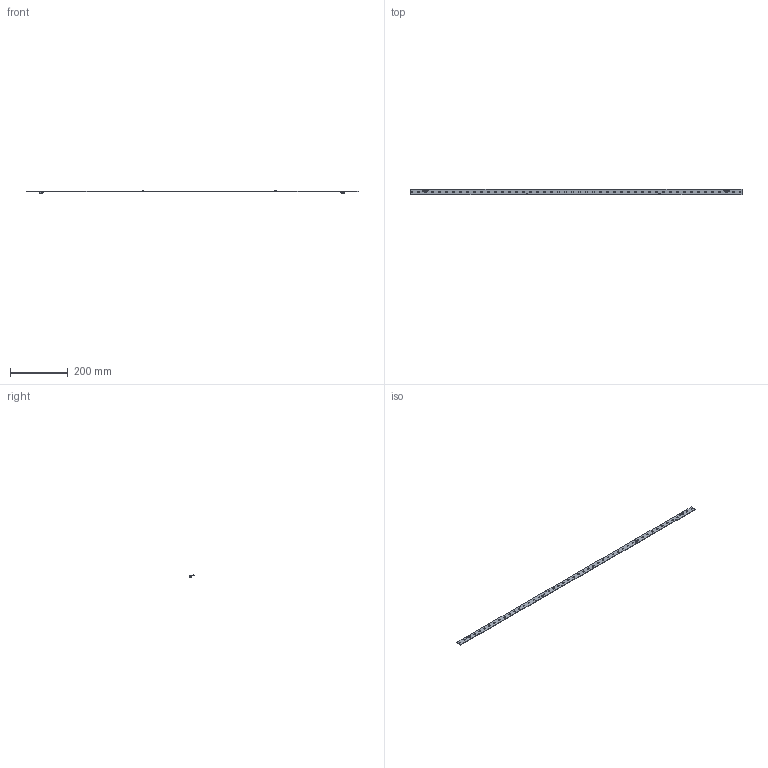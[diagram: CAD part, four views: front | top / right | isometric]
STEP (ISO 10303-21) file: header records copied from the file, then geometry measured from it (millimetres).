
FILE_DESCRIPTION(/* description */ (''),/* implementation_level */ '2;1');
FILE_NAME(/* name */ '4FT_2600lm_HV_BC_20161118.stp',/* time_stamp */ '2016-11-18T14:52:49+08:00',/* author */ (''),/* organization */ (''),/* preprocessor_version */ 'ST-DEVELOPER v11',/* originating_system */ 'SIEMENS PLM Software NX 7.5',/* authorisation */ '');
FILE_SCHEMA (('AUTOMOTIVE_DESIGN { 1 0 10303 214 1 1 1 1 }'));
Products named in the file (1): 310085E4tmet
Bounding box: 1150 x 20 x 9.12 mm (x, y, z)
Volume: 37328 mm3; surface area: 52966.5 mm2
Topology: 53 solids, 53 shells, 2608 faces, 7221 edges, 4783 vertices
Faces by surface type: plane 2008, cylinder 552, bspline 28, sphere 16, cone 4
Full cylindrical faces by diameter (mm): 0.6 x4
Entity records: 88769 total; most frequent: CARTESIAN_POINT 16984, ORIENTED_EDGE 14400, DIRECTION 13372, EDGE_CURVE 7200, LINE 6016, VECTOR 6016, VERTEX_POINT 4782, AXIS2_PLACEMENT_3D 3678
